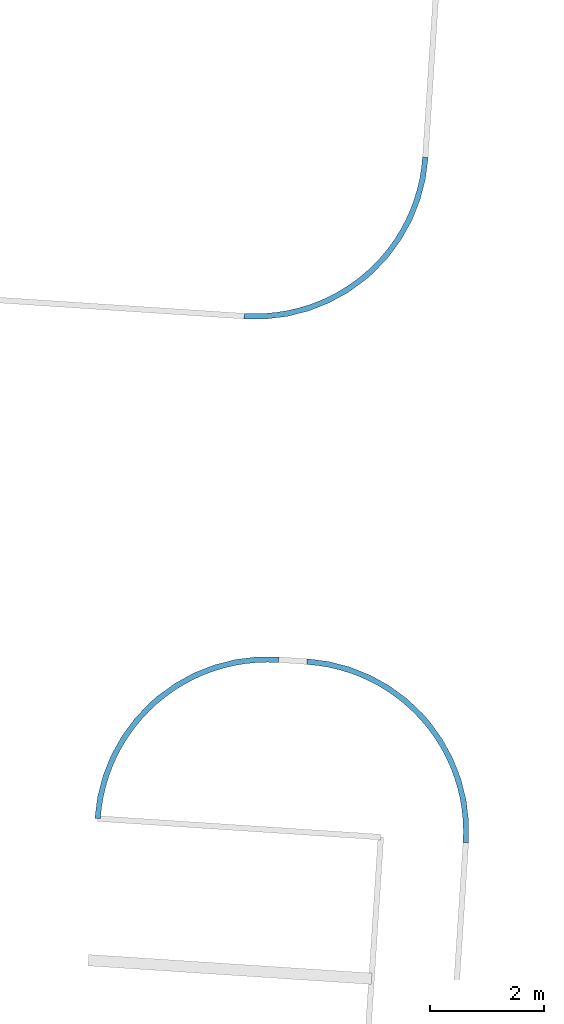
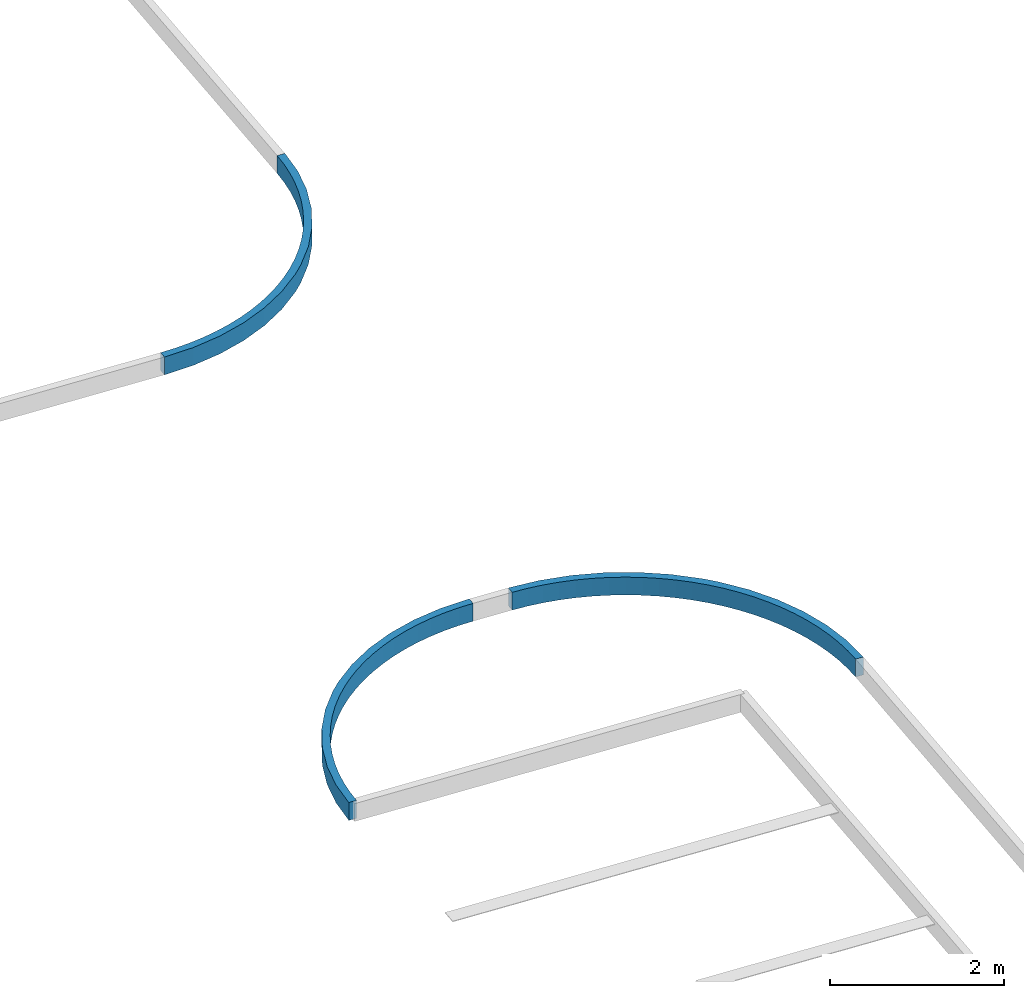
# One storey, part 96 of 112: 3 beams.
"""IFC2X3 building model written with IfcOpenShell, lengths in millimetres."""

import ifcopenshell
import ifcopenshell.guid

model = None  # the IFC model being written
_history = None  # IfcOwnerHistory: only IFC2X3 demands one
_inside = {}  # id of a spatial element -> (the spatial element, [elements in it])
_under = {}  # id of a project, library or spatial element -> (it, [spatial elements below it])
_declared = {}  # id of a project -> (the project, [libraries it declares])
_typed = {}  # id of a type object -> (the type object, [elements of that type])
_made_of = {}  # id of a material, layer set ... -> (it, [elements and type objects made of it])


def new_model(schema):
    """Start an empty IFC model of exactly this schema.

    Asked for "IFC4X3", IfcOpenShell would pick the latest addendum, in which some entities
    have other attributes; the version numbers below select the first issue.
    IFC2X3 requires an IfcOwnerHistory on every rooted entity: one is made here for all.
    """
    global model, _history
    if schema == "IFC4X3":
        model = ifcopenshell.file(schema_version=(4, 3, 0, 0))
    else:
        model = ifcopenshell.file(schema=schema)
    _inside.clear()
    _under.clear()
    _declared.clear()
    _typed.clear()
    _made_of.clear()
    _history = None
    if model.schema == "IFC2X3":
        org = make("IfcOrganization", Name="unknown")
        user = make(
            "IfcPersonAndOrganization",
            ThePerson=make("IfcPerson", FamilyName="unknown"),
            TheOrganization=org,
        )
        app = make(
            "IfcApplication",
            ApplicationDeveloper=org,
            Version="unknown",
            ApplicationFullName="unknown",
            ApplicationIdentifier="unknown",
        )
        _history = make(
            "IfcOwnerHistory",
            OwningUser=user,
            OwningApplication=app,
            ChangeAction="ADDED",
            CreationDate=0,
        )
    return model


def make(cls, **values):
    """One entity of the class cls with the attributes given. An attribute that is None is left unset."""
    return model.create_entity(
        cls, **{name: value for name, value in values.items() if value is not None}
    )


def entity(cls, *values):
    """Any entity or typed value of the class cls, its attributes in the order of the schema. None: left unset."""
    e = model.create_entity(cls)
    for i, value in enumerate(values):
        if value is not None:
            e[i] = value
    return e


def rooted(cls, **values):
    """An entity with a GlobalId (a new one), such as an element, a storey or a relation."""
    return make(cls, GlobalId=ifcopenshell.guid.new(), OwnerHistory=_history, **values)


def si_unit(unit_type, name, prefix=None):
    """IfcSIUnit, for example si_unit("LENGTHUNIT", "METRE", prefix="MILLI")."""
    return make("IfcSIUnit", UnitType=unit_type, Prefix=prefix, Name=name)


def converted_unit(unit_type, name, factor, base, dimensions=None, offset=None):
    """IfcConversionBasedUnit, such as the inch: factor (a typed value) times the base unit."""
    return make(
        "IfcConversionBasedUnit"
        if offset is None
        else "IfcConversionBasedUnitWithOffset",
        ConversionOffset=offset,
        Dimensions=None
        if dimensions is None
        else entity("IfcDimensionalExponents", *dimensions),
        UnitType=unit_type,
        Name=name,
        ConversionFactor=make(
            "IfcMeasureWithUnit", ValueComponent=factor, UnitComponent=base
        ),
    )


def derived_unit(unit_type, elements):
    """IfcDerivedUnit: a product of units, each with its exponent."""
    return make(
        "IfcDerivedUnit",
        Elements=[
            make("IfcDerivedUnitElement", Unit=unit, Exponent=power)
            for unit, power in elements
        ],
        UnitType=unit_type,
    )


def assignment(units):
    """IfcUnitAssignment: the units of a project."""
    return None if units is None else make("IfcUnitAssignment", Units=units)


def point(xyz):
    """IfcCartesianPoint."""
    return None if xyz is None else make("IfcCartesianPoint", Coordinates=xyz)


def direction(xyz):
    """IfcDirection."""
    return None if xyz is None else make("IfcDirection", DirectionRatios=xyz)


def frame(location, z_axis=None, x_axis=None):
    """IfcAxis2Placement3D, a coordinate frame: its origin and axes. An axis left out is left unset."""
    return make(
        "IfcAxis2Placement3D",
        Location=point(location),
        Axis=direction(z_axis),
        RefDirection=direction(x_axis),
    )


def origin():
    """The frame at (0, 0, 0) with its axes left unset."""
    return frame((0.0, 0.0, 0.0))


def place(relative_to, where):
    """IfcLocalPlacement: puts the frame where relative to a parent placement (None: the world)."""
    return make(
        "IfcLocalPlacement", PlacementRelTo=relative_to, RelativePlacement=where
    )


def context(
    kind, dimensions, precision=None, world=None, true_north=None, identifier=None
):
    """IfcGeometricRepresentationContext, for example the 3D "Model" context."""
    return make(
        "IfcGeometricRepresentationContext",
        ContextIdentifier=identifier,
        ContextType=kind,
        CoordinateSpaceDimension=dimensions,
        Precision=precision,
        WorldCoordinateSystem=world,
        TrueNorth=true_north,
    )


def subcontext(parent, identifier, kind, view, scale=None):
    """IfcGeometricRepresentationSubContext, for example "Body" below "Model"."""
    return make(
        "IfcGeometricRepresentationSubContext",
        ContextIdentifier=identifier,
        ContextType=kind,
        ParentContext=parent,
        TargetScale=scale,
        TargetView=view,
    )


def project(units=None, contexts=None):
    """IfcProject with its units and contexts."""
    return rooted(
        "IfcProject",
        Name="project",
        RepresentationContexts=contexts,
        UnitsInContext=assignment(units),
    )


def spatial(cls, under=None, at=None, **own):
    """A site, building, storey or space (cls), placed at a placement, below another one or the project."""
    s = rooted(cls, ObjectPlacement=at, **own)
    if under is not None:
        _under.setdefault(under.id(), (under, []))[1].append(s)
    return s


def faces_of(points, faces, orient=None, outer=None):
    """IfcFace entities. A face is a list of loops; a loop is a list of indices into points, from 0.

    orient and outer hold one flag for each loop. By default every Orientation is true, the
    first loop of a face is its IfcFaceOuterBound and the others are IfcFaceBound.
    """
    made = []
    for i, loops in enumerate(faces):
        bounds = []
        for j, loop in enumerate(loops):
            is_outer = j == 0 if outer is None else outer[i][j]
            bounds.append(
                make(
                    "IfcFaceOuterBound" if is_outer else "IfcFaceBound",
                    Bound=make("IfcPolyLoop", Polygon=[points[k] for k in loop]),
                    Orientation=True if orient is None else orient[i][j],
                )
            )
        made.append(make("IfcFace", Bounds=bounds))
    return made


def faceted_brep(points, faces, orient=None, outer=None, voids=None):
    """IfcFacetedBrep: a solid bounded by flat faces; with voids (closed shells), ...WithVoids."""
    shared = [point(p) for p in points]
    hull = make("IfcClosedShell", CfsFaces=faces_of(shared, faces, orient, outer))
    if voids is None:
        return make("IfcFacetedBrep", Outer=hull)
    return make(
        "IfcFacetedBrepWithVoids",
        Outer=hull,
        Voids=[
            make(cls, CfsFaces=faces_of(shared, fs, o, b)) for cls, fs, o, b in voids
        ],
    )


def shape(context_of_items, identifier, shape_type, items):
    """IfcShapeRepresentation: the items that make up one representation, for example the "Body"."""
    return make(
        "IfcShapeRepresentation",
        ContextOfItems=context_of_items,
        RepresentationIdentifier=identifier,
        RepresentationType=shape_type,
        Items=items,
    )


def material(Name=None, Category=None):
    """IfcMaterial."""
    return make("IfcMaterial", Name=Name, Category=Category)


def made_of(thing, what):
    """Note that an element or type object is made of a material, layer set ...; save() writes the relation."""
    if what is not None:
        _made_of.setdefault(what.id(), (what, []))[1].append(thing)
    return thing


def type_object(cls, material=None, **own):
    """A type object (cls), such as IfcWallType, which elements share."""
    return made_of(rooted(cls, **own), material)


def element(
    cls,
    number,
    at=None,
    inside=None,
    cuts=None,
    type_object=None,
    material=None,
    context=None,
    identifier="Body",
    shape_type=None,
    held_by="IfcProductDefinitionShape",
    body=None,
    shapes=None,
    **own,
):
    """One element of the class cls, such as IfcWall. Its Tag is "e" and its number.

    at: its placement. inside: the storey or other place that contains it. cuts: it is an
    opening in that element (IfcRelVoidsElement). A single representation is given by context,
    identifier, shape_type and body (its items); several are given by shapes. held_by: the class
    of the entity that holds the representations. save() writes the other relations.
    """
    e = rooted(cls, Tag="e%d" % number, ObjectPlacement=at, **own)
    if body is not None:
        shapes = [shape(context, identifier, shape_type, body)]
    if shapes is not None:
        e.Representation = make(held_by, Representations=shapes)
    if inside is not None:
        _inside.setdefault(inside.id(), (inside, []))[1].append(e)
    if cuts is not None:
        rooted(
            "IfcRelVoidsElement", RelatingBuildingElement=cuts, RelatedOpeningElement=e
        )
    if type_object is not None:
        _typed.setdefault(type_object.id(), (type_object, []))[1].append(e)
    return made_of(e, material)


def aggregate(whole, parts):
    """IfcRelAggregates: a whole, such as a stair, and the parts it consists of."""
    return rooted("IfcRelAggregates", RelatingObject=whole, RelatedObjects=parts)


def save(model, path):
    """Write the relations noted so far, then the file.

    IfcRelAggregates (storeys below a building ...), IfcRelContainedInSpatialStructure (elements
    in a storey), IfcRelDefinesByType, IfcRelAssociatesMaterial and IfcRelDeclares: one each for
    every whole, place, type object, material and project.
    """
    for whole, parts in _under.values():
        aggregate(whole, parts)
    for where, things in _inside.values():
        rooted(
            "IfcRelContainedInSpatialStructure",
            RelatedElements=things,
            RelatingStructure=where,
        )
    for kind, things in _typed.values():
        rooted("IfcRelDefinesByType", RelatedObjects=things, RelatingType=kind)
    for what, things in _made_of.values():
        rooted("IfcRelAssociatesMaterial", RelatedObjects=things, RelatingMaterial=what)
    for by, libraries in _declared.values():
        rooted("IfcRelDeclares", RelatingContext=by, RelatedDefinitions=libraries)
    model.write(path)


model = new_model("IFC2X3")

# Units and contexts
model_context = context("Model", 3, precision=0.01, world=origin(), true_north=direction((6.123031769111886e-17, 1.0)))
body_context = subcontext(model_context, "Body", "Model", "MODEL_VIEW")
ifc_project = project(units=[si_unit("LENGTHUNIT", "METRE", prefix="MILLI"), si_unit("AREAUNIT", "SQUARE_METRE"), si_unit("VOLUMEUNIT", "CUBIC_METRE"), converted_unit("PLANEANGLEUNIT", "DEGREE", entity("IfcRatioMeasure", 0.017453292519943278), si_unit("PLANEANGLEUNIT", "RADIAN"), dimensions=[0, 0, 0, 0, 0, 0, 0]), si_unit("MASSUNIT", "GRAM", prefix="KILO"), derived_unit("MASSDENSITYUNIT", [(si_unit("MASSUNIT", "GRAM", prefix="KILO"), 1), (si_unit("LENGTHUNIT", "METRE"), -3)]), derived_unit("MOMENTOFINERTIAUNIT", [(si_unit("LENGTHUNIT", "METRE"), 4)]), si_unit("TIMEUNIT", "SECOND"), si_unit("FREQUENCYUNIT", "HERTZ"), si_unit("THERMODYNAMICTEMPERATUREUNIT", "DEGREE_CELSIUS"), derived_unit("THERMALTRANSMITTANCEUNIT", [(si_unit("MASSUNIT", "GRAM", prefix="KILO"), 1), (si_unit("THERMODYNAMICTEMPERATUREUNIT", "KELVIN"), -1), (si_unit("TIMEUNIT", "SECOND"), -3)]), derived_unit("THERMALCONDUCTANCEUNIT", [(si_unit("MASSUNIT", "GRAM", prefix="KILO"), 1), (si_unit("LENGTHUNIT", "METRE"), 1), (si_unit("THERMODYNAMICTEMPERATUREUNIT", "KELVIN"), -1), (si_unit("TIMEUNIT", "SECOND"), -3)]), derived_unit("VOLUMETRICFLOWRATEUNIT", [(si_unit("LENGTHUNIT", "METRE"), 3), (si_unit("TIMEUNIT", "SECOND"), -1)]), derived_unit("MASSFLOWRATEUNIT", [(si_unit("MASSUNIT", "GRAM", prefix="KILO"), 1), (si_unit("TIMEUNIT", "SECOND"), -1)]), derived_unit("ROTATIONALFREQUENCYUNIT", [(si_unit("TIMEUNIT", "SECOND"), -1)]), si_unit("ELECTRICCURRENTUNIT", "AMPERE"), si_unit("ELECTRICVOLTAGEUNIT", "VOLT"), si_unit("POWERUNIT", "WATT"), converted_unit("FORCEUNIT", "KIP", entity("IfcRatioMeasure", 2.088543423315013e-05), si_unit("FORCEUNIT", "NEWTON"), dimensions=[1, 1, -2, 0, 0, 0, 0]), si_unit("ILLUMINANCEUNIT", "LUX"), si_unit("LUMINOUSFLUXUNIT", "LUMEN"), si_unit("LUMINOUSINTENSITYUNIT", "CANDELA"), derived_unit("USERDEFINED", [(si_unit("MASSUNIT", "GRAM", prefix="KILO"), -1), (si_unit("LENGTHUNIT", "METRE"), -2), (si_unit("TIMEUNIT", "SECOND"), 3), (si_unit("LUMINOUSFLUXUNIT", "LUMEN"), 1)]), derived_unit("USERDEFINED", [(si_unit("MASSUNIT", "GRAM", prefix="KILO"), 1), (si_unit("LENGTHUNIT", "METRE"), 3), (si_unit("TIMEUNIT", "SECOND"), -3), (si_unit("ELECTRICCURRENTUNIT", "AMPERE"), -2)]), derived_unit("USERDEFINED", [(si_unit("LENGTHUNIT", "METRE"), 2), (si_unit("TIMEUNIT", "SECOND"), -2)]), derived_unit("SOUNDPOWERUNIT", [(si_unit("MASSUNIT", "GRAM", prefix="KILO"), 1), (si_unit("LENGTHUNIT", "METRE"), 2), (si_unit("TIMEUNIT", "SECOND"), -3)]), derived_unit("SOUNDPRESSUREUNIT", [(si_unit("MASSUNIT", "GRAM", prefix="KILO"), 1), (si_unit("LENGTHUNIT", "METRE"), -1), (si_unit("TIMEUNIT", "SECOND"), -2)]), derived_unit("LINEARVELOCITYUNIT", [(si_unit("LENGTHUNIT", "METRE"), 1), (si_unit("TIMEUNIT", "SECOND"), -1)]), si_unit("PRESSUREUNIT", "PASCAL"), derived_unit("USERDEFINED", [(si_unit("LENGTHUNIT", "METRE"), -2), (si_unit("MASSUNIT", "GRAM", prefix="KILO"), 1), (si_unit("TIMEUNIT", "SECOND"), -2)]), derived_unit("LINEARFORCEUNIT", [(si_unit("MASSUNIT", "GRAM", prefix="KILO"), 1), (si_unit("LENGTHUNIT", "METRE"), 1), (si_unit("TIMEUNIT", "SECOND"), -2), (si_unit("LENGTHUNIT", "METRE"), -1)]), derived_unit("PLANARFORCEUNIT", [(si_unit("MASSUNIT", "GRAM", prefix="KILO"), 1), (si_unit("LENGTHUNIT", "METRE"), 1), (si_unit("TIMEUNIT", "SECOND"), -2), (si_unit("LENGTHUNIT", "METRE"), -2)]), derived_unit("SPECIFICHEATCAPACITYUNIT", [(si_unit("LENGTHUNIT", "METRE"), 2), (si_unit("TIMEUNIT", "SECOND"), -2), (si_unit("THERMODYNAMICTEMPERATUREUNIT", "KELVIN"), -1)]), derived_unit("VAPORPERMEABILITYUNIT", [(si_unit("TIMEUNIT", "SECOND"), 1), (si_unit("LENGTHUNIT", "METRE"), -1)]), derived_unit("DYNAMICVISCOSITYUNIT", [(si_unit("MASSUNIT", "GRAM", prefix="KILO"), 1), (si_unit("LENGTHUNIT", "METRE"), -1), (si_unit("TIMEUNIT", "SECOND"), -1)]), derived_unit("THERMALEXPANSIONCOEFFICIENTUNIT", [(si_unit("THERMODYNAMICTEMPERATUREUNIT", "KELVIN"), -1)])], contexts=[model_context])

# Site, building, storey
site_placement = place(None, frame((0.0, 0.0, 0.0), z_axis=(0.0, 0.0, 1.0), x_axis=(0.8191520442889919, 0.5735764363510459, 0.0)))
site = spatial("IfcSite", under=ifc_project, at=site_placement, Name="Default", CompositionType="ELEMENT")
building_placement = place(site_placement, origin())
building = spatial("IfcBuilding", under=site, at=building_placement, CompositionType="ELEMENT")
storey_placement = place(building_placement, frame((0.0, 0.0, -3600.0)))
storey = spatial("IfcBuildingStorey", under=building, at=storey_placement, Name="0.UG -3.60", CompositionType="ELEMENT", Elevation=-3600.0000000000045)

# Beams
ifc_material = material(Name="Paveta_bordur")
beam_type_1 = type_object("IfcBeamType", Name="Beam-161", PredefinedType="NOTDEFINED")
beam_1_placement = place(storey_placement, frame((157445.67263302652, 198977.49713730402, 860.0)))
element("IfcBeam", 1, at=beam_1_placement, inside=storey, type_object=beam_type_1, material=ifc_material, Name="Beam-161:Beam-161", ObjectType="Beam-161:Beam-161", context=body_context, shape_type="Brep", body=[
    faceted_brep([(64.17922528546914, 750.3968141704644, 250.0), (64.17922528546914, 750.3968141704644, 0.0), (1.5952722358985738, 672.4016295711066, 0.0), (1.5952722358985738, 672.4016295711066, 250.0), (4289.258953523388, 1142.444170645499, 0.0), (4211.263769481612, 1205.028124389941, 0.0), (4211.263769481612, 1205.028124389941, 250.0), (4289.258953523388, 1142.444170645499, 250.0), (3075.4342077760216, 232.53006544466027, 0.0), (2712.9677327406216, 108.73977964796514, 0.0), (2337.844377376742, 31.354712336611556, 0.0), (2147.379833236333, 10.47470752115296, 0.0), (1764.4004281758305, 4.751449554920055, 0.0), (1383.723615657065, 47.07336814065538, 0.0), (1011.3528963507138, 136.77302134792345, 0.0), (653.1607788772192, 272.4357920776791, 0.0), (314.79616683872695, 451.92219741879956, 0.0), (218.61544685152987, 634.5741303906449, 0.0), (380.2961745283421, 529.1000439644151, 0.0), (548.5290666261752, 434.42621111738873, 0.0), (722.5937240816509, 350.95803973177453, 0.0), (901.7447753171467, 279.05295332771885, 0.0), (1085.2150680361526, 219.01886052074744, 0.0), (1272.2189542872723, 171.1128365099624, 0.0), (1461.9556547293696, 135.54002224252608, 0.0), (1653.6126876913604, 112.45274596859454, 0.0), (1846.3693483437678, 101.94987094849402, 0.0), (2039.400223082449, 104.07637210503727, 0.0), (2231.8787240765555, 118.82314343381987, 0.0), (2422.980628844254, 146.12703699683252, 0.0), (2611.8876097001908, 185.87113333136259, 0.0), (2797.790737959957, 237.88524211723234, 0.0), (2979.8939478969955, 301.94663095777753, 0.0), (3157.4174456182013, 377.78097915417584, 0.0), (3329.6010482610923, 465.0635523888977, 0.0), (3495.707439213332, 563.4205932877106, 0.0), (3655.025325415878, 672.430921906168, 0.0), (3806.87248322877, 791.6277392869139, 0.0), (3950.598679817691, 920.5006263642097, 0.0), (4085.588457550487, 1058.4977296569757, 0.0), (4031.2635843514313, 859.3463609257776, 0.0), (3739.821021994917, 610.8162556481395, 0.0), (3419.527489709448, 400.7733229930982, 0.0), (314.79616683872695, 451.92219741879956, 250.0), (653.1607788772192, 272.4357920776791, 250.0), (1764.4004281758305, 4.751449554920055, 250.0), (1383.723615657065, 47.07336814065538, 250.0), (1011.3528963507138, 136.77302134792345, 250.0), (2147.379833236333, 10.47470752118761, 250.0), (2337.844377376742, 31.354712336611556, 250.0), (2712.9677327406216, 108.73977964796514, 250.0), (3075.4342077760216, 232.53006544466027, 250.0), (4031.2635843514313, 859.3463609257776, 250.0), (3739.821021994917, 610.8162556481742, 250.0), (3419.527489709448, 400.77332299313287, 250.0), (3157.4174456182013, 377.78097915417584, 250.0), (2979.8939478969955, 301.94663095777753, 250.0), (2797.790737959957, 237.88524211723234, 250.0), (2611.8876097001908, 185.87113333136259, 250.0), (2422.980628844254, 146.12703699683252, 250.0), (2231.8787240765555, 118.82314343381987, 250.0), (2039.400223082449, 104.07637210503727, 250.0), (1846.3693483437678, 101.94987094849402, 250.0), (1653.6126876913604, 112.45274596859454, 250.0), (1461.9556547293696, 135.54002224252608, 250.0), (1272.2189542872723, 171.1128365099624, 250.0), (1085.2150680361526, 219.01886052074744, 250.0), (901.7447753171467, 279.05295332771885, 250.0), (722.5937240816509, 350.95803973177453, 250.0), (548.5290666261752, 434.42621111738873, 250.0), (380.2961745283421, 529.1000439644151, 250.0), (218.61544685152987, 634.5741303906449, 250.0), (4085.588457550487, 1058.4977296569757, 250.0), (3950.598679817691, 920.5006263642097, 250.0), (3806.87248322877, 791.6277392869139, 250.0), (3655.025325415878, 672.430921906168, 250.0), (3495.707439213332, 563.4205932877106, 250.0), (3329.6010482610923, 465.0635523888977, 250.0)], [[[0, 1, 2, 3]], [[4, 5, 6, 7]], [[8, 9, 10, 11, 12, 13, 14, 15, 16, 2, 1, 17, 18, 19, 20, 21, 22, 23, 24, 25, 26, 27, 28, 29, 30, 31, 32, 33, 34, 35, 36, 37, 38, 39, 5, 4, 40, 41, 42]], [[43, 3, 2, 16]], [[43, 16, 15, 44]], [[13, 12, 45, 46]], [[47, 14, 13, 46]], [[15, 14, 47, 44]], [[45, 12, 11, 48]], [[11, 10, 49, 48]], [[49, 10, 9, 50]], [[8, 51, 50, 9]], [[41, 40, 52, 53]], [[54, 42, 41, 53]], [[51, 8, 42, 54]], [[52, 40, 4, 7]], [[55, 56, 57, 58, 59, 60, 61, 62, 63, 64, 65, 66, 67, 68, 69, 70, 71, 0, 3, 43, 44, 47, 46, 45, 48, 49, 50, 51, 54, 53, 52, 7, 6, 72, 73, 74, 75, 76, 77]], [[17, 1, 0, 71]], [[70, 18, 17, 71]], [[67, 66, 22, 21]], [[18, 70, 69, 19]], [[26, 25, 63, 62]], [[27, 26, 62, 61]], [[24, 23, 65, 64]], [[25, 24, 64, 63]], [[22, 66, 65, 23]], [[28, 27, 61, 60]], [[68, 20, 19, 69]], [[67, 21, 20, 68]], [[31, 57, 56, 32]], [[32, 56, 55, 33]], [[30, 29, 59, 58]], [[30, 58, 57, 31]], [[34, 33, 55, 77]], [[38, 37, 74, 73]], [[39, 38, 73, 72]], [[36, 35, 76, 75]], [[37, 36, 75, 74]], [[34, 77, 76, 35]], [[5, 39, 72, 6]], [[60, 59, 29, 28]]]),
])
beam_type_2 = type_object("IfcBeamType", Name="Beam-161", PredefinedType="NOTDEFINED")
beam_2_placement = place(storey_placement, frame((154860.4463107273, 189820.03270322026, 860.0)))
element("IfcBeam", 2, at=beam_2_placement, inside=storey, type_object=beam_type_2, material=ifc_material, Name="Beam-161 236930:Beam-161 236930", ObjectType="Beam-161 236930:Beam-161 236930", context=body_context, shape_type="Brep", body=[
    faceted_brep([(456.2393249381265, 64.18140625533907, 250.0), (456.2393249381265, 64.18140625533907, 0.0), (534.2327594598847, 1.5952722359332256, 0.0), (534.2327594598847, 1.5952722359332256, 250.0), (64.17704391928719, 4289.378864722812, 250.0), (64.17704391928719, 4289.378864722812, 0.0), (1.5952722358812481, 4211.381929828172, 0.0), (1.5952722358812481, 4211.381929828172, 250.0), (974.1459612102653, 3075.5291215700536, 0.0), (1097.9434905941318, 2713.050726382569, 0.0), (1175.3325715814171, 2337.9142906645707, 0.0), (1196.213320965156, 2147.4429664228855, 0.0), (1201.9354995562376, 1764.4499221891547, 0.0), (1159.609097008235, 1383.7599027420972, 0.0), (1069.9016734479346, 1011.3770440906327, 0.0), (934.2280691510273, 653.1744640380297, 0.0), (754.7280900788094, 314.8016330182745, 0.0), (572.0702703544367, 218.62002138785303, 0.0), (677.5520673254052, 380.30392370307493, 0.0), (772.2329944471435, 548.5407086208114, 0.0), (855.7075845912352, 722.6099091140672, 0.0), (927.6183613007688, 901.7660810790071, 0.0), (987.6573696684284, 1085.2419956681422, 0.0), (1035.5674951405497, 1272.2519249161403, 0.0), (1071.1435645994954, 1461.9950065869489, 0.0), (1094.233225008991, 1653.6586738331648, 0.0), (1104.7375958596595, 1846.422134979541, 0.0), (1102.6116926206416, 2039.4598885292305, 0.0), (1087.8646193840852, 2231.9452583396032, 0.0), (1060.5595298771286, 2423.053933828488, 0.0), (1020.8133570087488, 2611.967500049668, 0.0), (968.7963121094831, 2797.8769425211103, 0.0), (904.7311560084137, 2979.986111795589, 0.0), (828.8922450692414, 3157.5151329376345, 0.0), (741.6043562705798, 3329.703745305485, 0.0), (643.2412963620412, 3495.8145583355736, 0.0), (534.2243010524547, 3655.136209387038, 0.0), (415.02023108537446, 3806.986410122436, 0.0), (286.1395729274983, 3950.714868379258, 0.0), (148.13425263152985, 4085.70607301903, 0.0), (347.29156220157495, 4031.3816073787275, 0.0), (595.836703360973, 3739.9339653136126, 0.0), (805.8924832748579, 3419.6325688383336, 0.0), (754.7280900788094, 314.8016330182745, 250.0), (934.2280691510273, 653.1744640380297, 250.0), (1201.9354995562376, 1764.4499221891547, 250.0), (1159.609097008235, 1383.7599027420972, 250.0), (1069.9016734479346, 1011.3770440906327, 250.0), (1196.2133209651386, 2147.44296642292, 250.0), (1175.3325715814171, 2337.9142906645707, 250.0), (1097.9434905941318, 2713.050726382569, 250.0), (974.1459612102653, 3075.5291215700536, 250.0), (347.29156220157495, 4031.3816073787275, 250.0), (595.836703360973, 3739.9339653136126, 250.0), (805.8924832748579, 3419.6325688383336, 250.0), (828.8922450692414, 3157.5151329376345, 250.0), (904.7311560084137, 2979.986111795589, 250.0), (968.7963121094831, 2797.8769425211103, 250.0), (1020.8133570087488, 2611.967500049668, 250.0), (1060.5595298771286, 2423.053933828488, 250.0), (1087.8646193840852, 2231.9452583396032, 250.0), (1102.6116926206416, 2039.4598885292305, 250.0), (1104.7375958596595, 1846.422134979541, 250.0), (1094.233225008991, 1653.6586738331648, 250.0), (1071.1435645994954, 1461.9950065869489, 250.0), (1035.5674951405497, 1272.2519249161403, 250.0), (987.6573696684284, 1085.2419956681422, 250.0), (927.6183613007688, 901.7660810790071, 250.0), (855.7075845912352, 722.6099091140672, 250.0), (772.2329944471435, 548.5407086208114, 250.0), (677.5520673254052, 380.30392370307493, 250.0), (572.0702703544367, 218.62002138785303, 250.0), (148.13425263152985, 4085.70607301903, 250.0), (286.1395729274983, 3950.714868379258, 250.0), (415.02023108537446, 3806.986410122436, 250.0), (534.2243010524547, 3655.136209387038, 250.0), (643.2412963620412, 3495.8145583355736, 250.0), (741.6043562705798, 3329.703745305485, 250.0)], [[[0, 1, 2, 3]], [[4, 5, 6, 7]], [[8, 9, 10, 11, 12, 13, 14, 15, 16, 2, 1, 17, 18, 19, 20, 21, 22, 23, 24, 25, 26, 27, 28, 29, 30, 31, 32, 33, 34, 35, 36, 37, 38, 39, 6, 5, 40, 41, 42]], [[43, 3, 2, 16]], [[43, 16, 15, 44]], [[13, 12, 45, 46]], [[47, 14, 13, 46]], [[15, 14, 47, 44]], [[45, 12, 11, 48]], [[11, 10, 49, 48]], [[49, 10, 9, 50]], [[8, 51, 50, 9]], [[41, 40, 52, 53]], [[54, 42, 41, 53]], [[51, 8, 42, 54]], [[52, 40, 5, 4]], [[55, 56, 57, 58, 59, 60, 61, 62, 63, 64, 65, 66, 67, 68, 69, 70, 71, 0, 3, 43, 44, 47, 46, 45, 48, 49, 50, 51, 54, 53, 52, 4, 7, 72, 73, 74, 75, 76, 77]], [[17, 1, 0, 71]], [[70, 18, 17, 71]], [[67, 66, 22, 21]], [[18, 70, 69, 19]], [[26, 25, 63, 62]], [[27, 26, 62, 61]], [[24, 23, 65, 64]], [[25, 24, 64, 63]], [[22, 66, 65, 23]], [[28, 27, 61, 60]], [[68, 20, 19, 69]], [[67, 21, 20, 68]], [[31, 57, 56, 32]], [[32, 56, 55, 33]], [[30, 29, 59, 58]], [[30, 58, 57, 31]], [[34, 33, 55, 77]], [[38, 37, 74, 73]], [[39, 38, 73, 72]], [[36, 35, 76, 75]], [[37, 36, 75, 74]], [[34, 77, 76, 35]], [[6, 39, 72, 7]], [[60, 59, 29, 28]]]),
])
beam_type_3 = type_object("IfcBeamType", Name="Beam-161", PredefinedType="NOTDEFINED")
beam_3_placement = place(storey_placement, frame((150245.507501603, 193888.12162537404, 860.0)))
element("IfcBeam", 3, at=beam_3_placement, inside=storey, type_object=beam_type_3, material=ifc_material, Name="Beam-161 236948:Beam-161 236948", ObjectType="Beam-161 236948:Beam-161 236948", context=body_context, shape_type="Brep", body=[
    faceted_brep([(4226.675000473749, 456.22658245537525, 250.0), (4226.675000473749, 456.22658245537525, 0.0), (4289.2589535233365, 534.2217670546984, 0.0), (4289.2589535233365, 534.2217670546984, 250.0), (1.5952722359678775, 64.17922598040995, 0.0), (79.5904562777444, 1.5952722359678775, 0.0), (79.5904562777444, 1.5952722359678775, 250.0), (1.5952722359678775, 64.17922598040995, 250.0), (1215.4200179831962, 974.0933311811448, 0.0), (1577.8864930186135, 1097.88361697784, 0.0), (1953.0098483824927, 1175.2686842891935, 0.0), (2143.474392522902, 1196.148689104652, 0.0), (2526.4537975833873, 1201.871947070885, 0.0), (2907.130610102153, 1159.5500284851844, 0.0), (3279.501329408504, 1069.8503752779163, 0.0), (3637.6934468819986, 934.1876045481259, 0.0), (3976.0580589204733, 754.7011992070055, 0.0), (4072.238778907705, 572.0492662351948, 0.0), (3910.558051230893, 677.5233526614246, 0.0), (3742.3251591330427, 772.197185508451, 0.0), (3568.260501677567, 855.6653568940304, 0.0), (3389.1094504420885, 927.5704432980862, 0.0), (3205.6391577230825, 987.6045361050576, 0.0), (3018.6352714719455, 1035.5105601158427, 0.0), (2828.8985710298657, 1071.0833743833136, 0.0), (2637.241538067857, 1094.1706506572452, 0.0), (2444.48487741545, 1104.673525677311, 0.0), (2251.4540026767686, 1102.5470245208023, 0.0), (2058.9755016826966, 1087.8002531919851, 0.0), (1867.8735969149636, 1060.4963596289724, 0.0), (1678.9666160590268, 1020.7522632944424, 0.0), (1493.0634877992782, 968.7381545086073, 0.0), (1310.9602778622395, 904.6767656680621, 0.0), (1133.4367801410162, 828.8424174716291, 0.0), (961.2531774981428, 741.5598442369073, 0.0), (795.1467865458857, 643.202803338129, 0.0), (635.8289003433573, 534.1924747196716, 0.0), (483.98174253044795, 414.9956573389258, 0.0), (340.25554594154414, 286.12277026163, 0.0), (205.2657682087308, 148.12566696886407, 0.0), (259.5906414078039, 347.2770357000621, 0.0), (551.033203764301, 595.8071409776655, 0.0), (871.3267360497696, 805.8500736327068, 0.0), (3976.0580589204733, 754.7011992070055, 250.0), (3637.6934468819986, 934.1876045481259, 250.0), (2526.4537975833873, 1201.871947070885, 250.0), (2907.130610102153, 1159.5500284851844, 250.0), (3279.501329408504, 1069.8503752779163, 250.0), (2143.474392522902, 1196.148689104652, 250.0), (1953.0098483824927, 1175.2686842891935, 250.0), (1577.8864930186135, 1097.88361697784, 250.0), (1215.4200179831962, 974.0933311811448, 250.0), (259.5906414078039, 347.2770357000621, 250.0), (551.033203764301, 595.8071409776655, 250.0), (871.3267360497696, 805.8500736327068, 250.0), (1133.4367801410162, 828.8424174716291, 250.0), (1310.9602778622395, 904.6767656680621, 250.0), (1493.0634877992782, 968.7381545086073, 250.0), (1678.9666160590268, 1020.7522632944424, 250.0), (1867.8735969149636, 1060.4963596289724, 250.0), (2058.9755016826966, 1087.8002531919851, 250.0), (2251.4540026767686, 1102.5470245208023, 250.0), (2444.48487741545, 1104.673525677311, 250.0), (2637.241538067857, 1094.1706506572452, 250.0), (2828.8985710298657, 1071.0833743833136, 250.0), (3018.6352714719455, 1035.5105601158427, 250.0), (3205.6391577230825, 987.6045361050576, 250.0), (3389.1094504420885, 927.5704432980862, 250.0), (3568.260501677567, 855.6653568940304, 250.0), (3742.3251591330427, 772.197185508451, 250.0), (3910.558051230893, 677.5233526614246, 250.0), (4072.238778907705, 572.0492662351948, 250.0), (205.2657682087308, 148.12566696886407, 250.0), (340.25554594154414, 286.12277026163, 250.0), (483.98174253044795, 414.9956573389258, 250.0), (635.8289003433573, 534.1924747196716, 250.0), (795.1467865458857, 643.202803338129, 250.0), (961.2531774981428, 741.5598442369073, 250.0)], [[[0, 1, 2, 3]], [[4, 5, 6, 7]], [[8, 9, 10, 11, 12, 13, 14, 15, 16, 2, 1, 17, 18, 19, 20, 21, 22, 23, 24, 25, 26, 27, 28, 29, 30, 31, 32, 33, 34, 35, 36, 37, 38, 39, 5, 4, 40, 41, 42]], [[43, 3, 2, 16]], [[43, 16, 15, 44]], [[13, 12, 45, 46]], [[47, 14, 13, 46]], [[15, 14, 47, 44]], [[45, 12, 11, 48]], [[11, 10, 49, 48]], [[49, 10, 9, 50]], [[8, 51, 50, 9]], [[41, 40, 52, 53]], [[54, 42, 41, 53]], [[51, 8, 42, 54]], [[52, 40, 4, 7]], [[55, 56, 57, 58, 59, 60, 61, 62, 63, 64, 65, 66, 67, 68, 69, 70, 71, 0, 3, 43, 44, 47, 46, 45, 48, 49, 50, 51, 54, 53, 52, 7, 6, 72, 73, 74, 75, 76, 77]], [[17, 1, 0, 71]], [[70, 18, 17, 71]], [[67, 66, 22, 21]], [[18, 70, 69, 19]], [[26, 25, 63, 62]], [[27, 26, 62, 61]], [[24, 23, 65, 64]], [[25, 24, 64, 63]], [[22, 66, 65, 23]], [[28, 27, 61, 60]], [[68, 20, 19, 69]], [[67, 21, 20, 68]], [[31, 57, 56, 32]], [[32, 56, 55, 33]], [[30, 29, 59, 58]], [[30, 58, 57, 31]], [[34, 33, 55, 77]], [[38, 37, 74, 73]], [[39, 38, 73, 72]], [[36, 35, 76, 75]], [[37, 36, 75, 74]], [[34, 77, 76, 35]], [[5, 39, 72, 6]], [[60, 59, 29, 28]]]),
])

save(model, "model.ifc")
